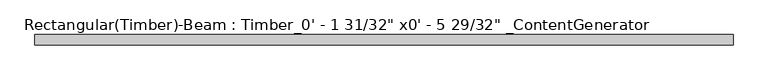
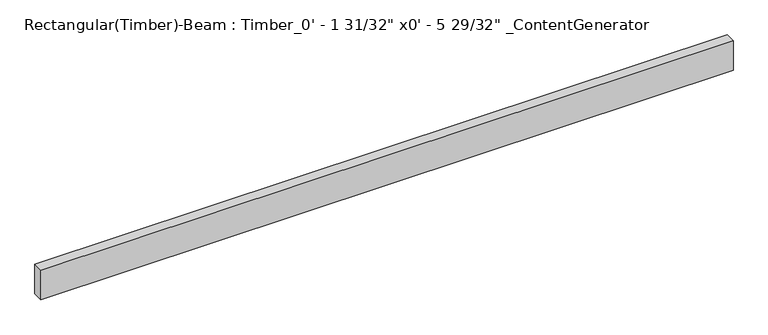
"""IFC4 building model written with IfcOpenShell, lengths in millimetres: beam geometry."""

from ifc_helpers import new_model, si_unit, frame, origin, place, context, project, spatial, polyline, outline, extrude, source, transform, mapped, element, save


def beam_b7b81975(model_context):
    return source(origin(), model_context, "Body", "SweptSolid", [
        extrude(outline(polyline([(1665.0284875, 25.4), (1665.0284875, -25.4), (-1715.8284875, -25.4), (-1715.8284875, 25.4), (1665.0284875, 25.4)])), frame((0.0, 0.0, -76.2), z_axis=(0.0, 0.0, 1.0), x_axis=(1.0, 0.0, 0.0)), (0.0, 0.0, 1.0), 152.4),
    ])


if __name__ == "__main__":
    model = new_model("IFC4")
    model_context = context("Model", 3, world=origin())
    ifc_project = project(units=[si_unit("LENGTHUNIT", "METRE", prefix="MILLI")], contexts=[model_context])
    site = spatial("IfcSite", under=ifc_project)
    building = spatial("IfcBuilding", under=site)
    placement = place(None, origin())
    beam_shape = beam_b7b81975(model_context)
    element("IfcBeam", 1, ObjectType="Rectangular(Timber)-Beam : Timber_0' - 1 31/32\" x0' - 5 29/32\" _ContentGenerator", at=placement, inside=building, context=model_context, shape_type="MappedRepresentation", body=[
        mapped(beam_shape, transform((0.0, 0.0, 0.0), x_axis=(1.0, 0.0, 0.0), y_axis=(0.0, 1.0, 0.0), z_axis=(0.0, 0.0, 1.0))),
    ])
    save(model, "model.ifc")
